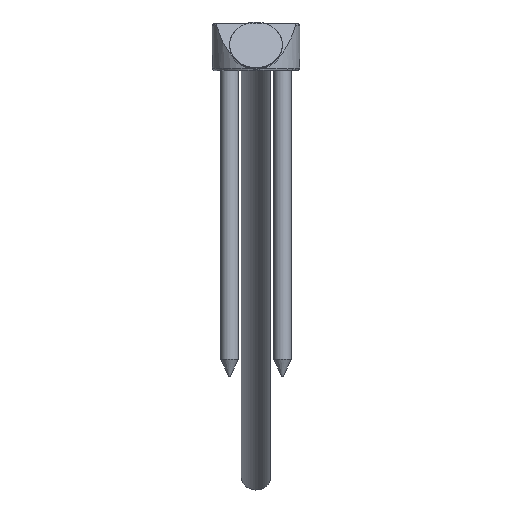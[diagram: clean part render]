
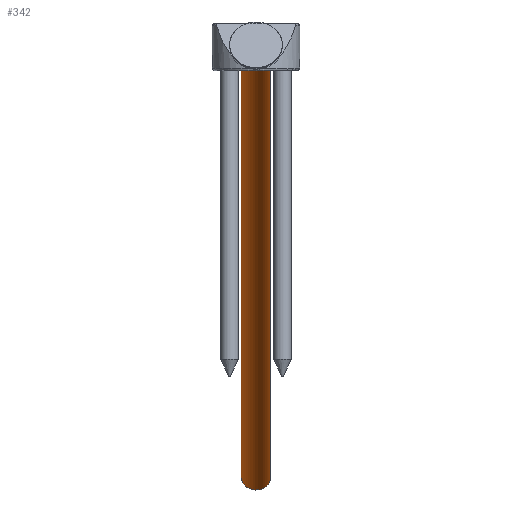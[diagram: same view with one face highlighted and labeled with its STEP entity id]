
A CAD part, front view. The second image highlights one B-rep face of the part: STEP entity #342.
In plain terms, the highlighted cylindrical face has radius 5 mm (diameter 10 mm), a full revolution.
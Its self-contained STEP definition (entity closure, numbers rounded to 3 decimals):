
#56=CYLINDRICAL_SURFACE('',#425,5.);
#138=ORIENTED_EDGE('',*,*,#177,.T.);
#139=ORIENTED_EDGE('',*,*,#176,.F.);
#176=EDGE_CURVE('',#205,#205,#229,.T.);
#177=EDGE_CURVE('',#206,#206,#230,.T.);
#205=VERTEX_POINT('',#666);
#206=VERTEX_POINT('',#669);
#229=CIRCLE('',#424,5.);
#230=CIRCLE('',#426,5.);
#268=EDGE_LOOP('',(#138));
#269=EDGE_LOOP('',(#139));
#309=FACE_BOUND('',#268,.T.);
#310=FACE_BOUND('',#269,.T.);
#342=ADVANCED_FACE('',(#309,#310),#56,.T.);
#424=AXIS2_PLACEMENT_3D('',#665,#531,#532);
#425=AXIS2_PLACEMENT_3D('',#667,#533,#534);
#426=AXIS2_PLACEMENT_3D('',#668,#535,#536);
#531=DIRECTION('',(0.,1.,0.));
#532=DIRECTION('',(0.,0.,1.));
#533=DIRECTION('',(0.,1.,0.));
#534=DIRECTION('',(0.,0.,1.));
#535=DIRECTION('',(0.,1.,0.));
#536=DIRECTION('',(0.,0.,1.));
#665=CARTESIAN_POINT('',(0.,49.,0.));
#666=CARTESIAN_POINT('',(0.,49.,5.));
#667=CARTESIAN_POINT('',(0.,54.,0.));
#668=CARTESIAN_POINT('',(0.,-240.,0.));
#669=CARTESIAN_POINT('',(0.,-240.,5.));
